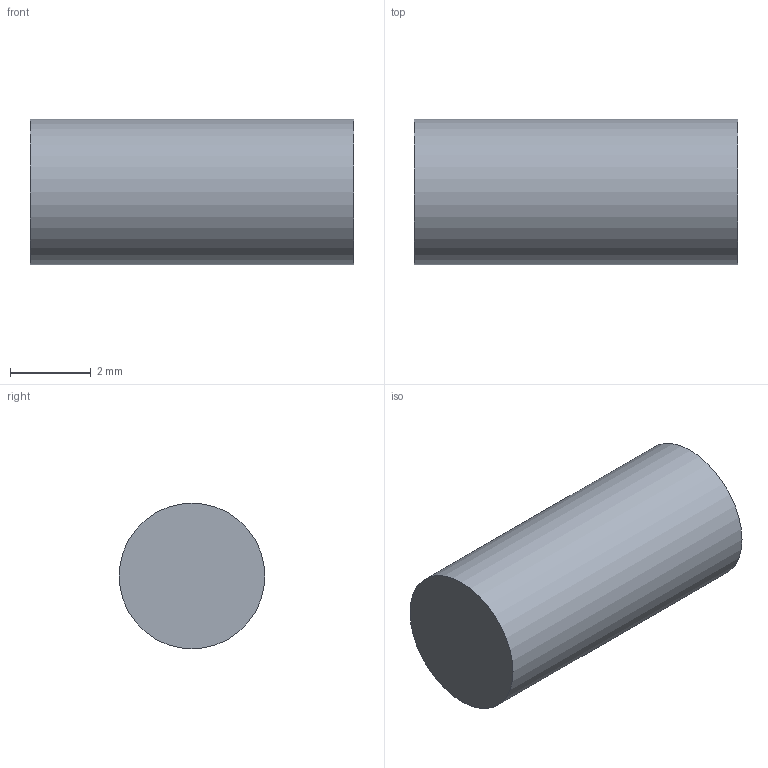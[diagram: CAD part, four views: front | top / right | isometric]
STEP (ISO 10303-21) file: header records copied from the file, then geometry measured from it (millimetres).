
FILE_DESCRIPTION(('Open CASCADE Model'),'2;1');
FILE_NAME('Open CASCADE Shape Model','2026-09-15T14:06:45',('Author'),( 'Open CASCADE'),'Open CASCADE STEP processor 7.7','Open CASCADE 7.7' ,'Unknown');
FILE_SCHEMA(('AUTOMOTIVE_DESIGN { 1 0 10303 214 1 1 1 1 }'));
Length unit declared in the file: millimetre
Products named in the file (1): J9_COMMON_SPLICE_INSULATION_D3p6_L8
Bounding box: 8 x 3.6 x 3.6 mm (x, y, z)
Volume: 81.4 mm3; surface area: 110.8 mm2
Topology: 1 solids, 1 shells, 3 faces, 3 edges, 2 vertices
Faces by surface type: plane 2, cylinder 1
Full cylindrical faces by diameter (mm): 3.6 x1
Entity records: 108 total; most frequent: DIRECTION 19, CARTESIAN_POINT 15, AXIS2_PLACEMENT_3D 6, ORIENTED_EDGE 6, PCURVE 6, DEFINITIONAL_REPRESENTATION 6, LINE 5, VECTOR 5
